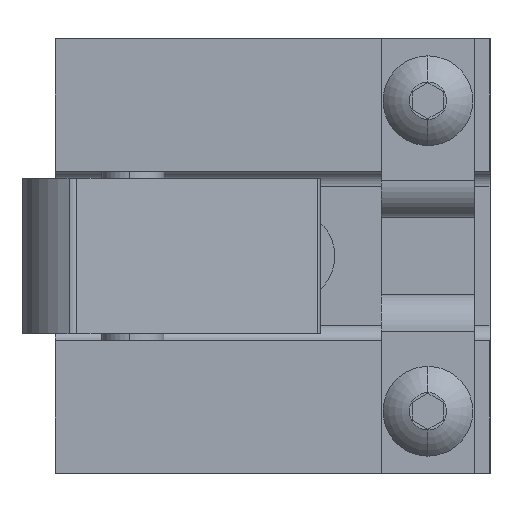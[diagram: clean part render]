
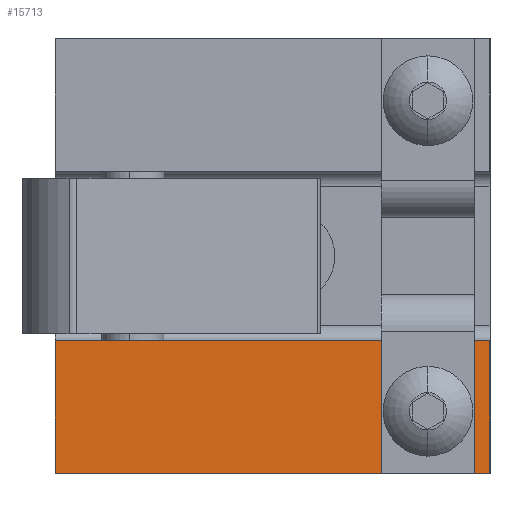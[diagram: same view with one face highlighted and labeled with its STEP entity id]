
A CAD part, left-side view. The second image highlights one B-rep face of the part: STEP entity #15713.
In plain terms, the highlighted planar face has unit normal (-1, 0, 0).
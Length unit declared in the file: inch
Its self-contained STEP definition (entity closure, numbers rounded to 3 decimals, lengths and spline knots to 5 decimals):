
#3175 = CARTESIAN_POINT ( 'NONE',  ( 7.4273, 3.84026, -1.59375 ) ) ;
#3330 = CARTESIAN_POINT ( 'NONE',  ( 7.4273, 3.84026, -1.40625 ) ) ;
#3331 = DIRECTION ( 'NONE',  ( 0., 0., 1. ) ) ;
#3332 = DIRECTION ( 'NONE',  ( -1., 0., 0. ) ) ;
#3333 = CARTESIAN_POINT ( 'NONE',  ( 7.4273, 3.84026, -1.5 ) ) ;
#3334 = AXIS2_PLACEMENT_3D ( 'NONE', #3333, #3332, #3331 ) ;
#3335 = CIRCLE ( 'NONE', #3334, 0.09375 ) ;
#4511 = DIRECTION ( 'NONE',  ( 0., 0., 1. ) ) ;
#4512 = VECTOR ( 'NONE', #4511, 39.37008 ) ;
#4556 = CARTESIAN_POINT ( 'NONE',  ( 7.4273, 5.34026, -1.215 ) ) ;
#4667 = CARTESIAN_POINT ( 'NONE',  ( 7.4273, 5.34026, -1.75 ) ) ;
#8644 = DIRECTION ( 'NONE',  ( 0., 0., 1. ) ) ;
#8645 = VECTOR ( 'NONE', #8644, 39.37008 ) ;
#8646 = CARTESIAN_POINT ( 'NONE',  ( 7.4273, 3.59026, -1.75 ) ) ;
#8647 = LINE ( 'NONE', #8646, #8645 ) ;
#8676 = FACE_BOUND ( 'NONE', #15705, .T. ) ;
#8678 = FACE_OUTER_BOUND ( 'NONE', #15678, .T. ) ;
#8707 = DIRECTION ( 'NONE',  ( -1., 0., 0. ) ) ;
#8708 = CARTESIAN_POINT ( 'NONE',  ( 7.4273, 3.59026, -1.75 ) ) ;
#8709 = AXIS2_PLACEMENT_3D ( 'NONE', #8708, #8707, #8858 ) ;
#8710 = PLANE ( 'NONE',  #8709 ) ;
#8794 = CARTESIAN_POINT ( 'NONE',  ( 7.4273, 3.59026, -1.215 ) ) ;
#8795 = DIRECTION ( 'NONE',  ( 0., -1., 0. ) ) ;
#8796 = VECTOR ( 'NONE', #8795, 39.37008 ) ;
#8797 = CARTESIAN_POINT ( 'NONE',  ( 7.4273, 3.59026, -1.215 ) ) ;
#8798 = LINE ( 'NONE', #8797, #8796 ) ;
#8804 = DIRECTION ( 'NONE',  ( 0., 0., 1. ) ) ;
#8805 = DIRECTION ( 'NONE',  ( -1., 0., 0. ) ) ;
#8806 = CARTESIAN_POINT ( 'NONE',  ( 7.4273, 3.84026, -1.5 ) ) ;
#8807 = AXIS2_PLACEMENT_3D ( 'NONE', #8806, #8805, #8804 ) ;
#8808 = CIRCLE ( 'NONE', #8807, 0.09375 ) ;
#8809 = CARTESIAN_POINT ( 'NONE',  ( 7.4273, 3.59026, -1.75 ) ) ;
#8810 = DIRECTION ( 'NONE',  ( 0., -1., 0. ) ) ;
#8811 = VECTOR ( 'NONE', #8810, 39.37008 ) ;
#8812 = CARTESIAN_POINT ( 'NONE',  ( 7.4273, 3.59026, -1.75 ) ) ;
#8813 = LINE ( 'NONE', #8812, #8811 ) ;
#8858 = DIRECTION ( 'NONE',  ( 0., 0., 1. ) ) ;
#9920 = LINE ( 'NONE', #4667, #4512 ) ;
#9921 = CARTESIAN_POINT ( 'NONE',  ( 7.4273, 5.34026, -1.75 ) ) ;
#12838 = EDGE_CURVE ( 'NONE', #12886, #12839, #3335, .T. ) ;
#12839 = VERTEX_POINT ( 'NONE', #3330 ) ;
#12886 = VERTEX_POINT ( 'NONE', #3175 ) ;
#13034 = VERTEX_POINT ( 'NONE', #9921 ) ;
#13036 = EDGE_CURVE ( 'NONE', #13034, #13093, #9920, .T. ) ;
#13093 = VERTEX_POINT ( 'NONE', #4556 ) ;
#15575 = ORIENTED_EDGE ( 'NONE', *, *, #15639, .T. ) ;
#15639 = EDGE_CURVE ( 'NONE', #15688, #15697, #8647, .T. ) ;
#15677 = ORIENTED_EDGE ( 'NONE', *, *, #12838, .F. ) ;
#15678 = EDGE_LOOP ( 'NONE', ( #15695, #15698, #15699, #15575 ) ) ;
#15686 = EDGE_CURVE ( 'NONE', #13034, #15688, #8813, .T. ) ;
#15688 = VERTEX_POINT ( 'NONE', #8809 ) ;
#15690 = ORIENTED_EDGE ( 'NONE', *, *, #15691, .F. ) ;
#15691 = EDGE_CURVE ( 'NONE', #12839, #12886, #8808, .T. ) ;
#15695 = ORIENTED_EDGE ( 'NONE', *, *, #15696, .F. ) ;
#15696 = EDGE_CURVE ( 'NONE', #13093, #15697, #8798, .T. ) ;
#15697 = VERTEX_POINT ( 'NONE', #8794 ) ;
#15698 = ORIENTED_EDGE ( 'NONE', *, *, #13036, .F. ) ;
#15699 = ORIENTED_EDGE ( 'NONE', *, *, #15686, .T. ) ;
#15705 = EDGE_LOOP ( 'NONE', ( #15690, #15677 ) ) ;
#15713 = ADVANCED_FACE ( 'NONE', ( #8676, #8678 ), #8710, .T. ) ;
